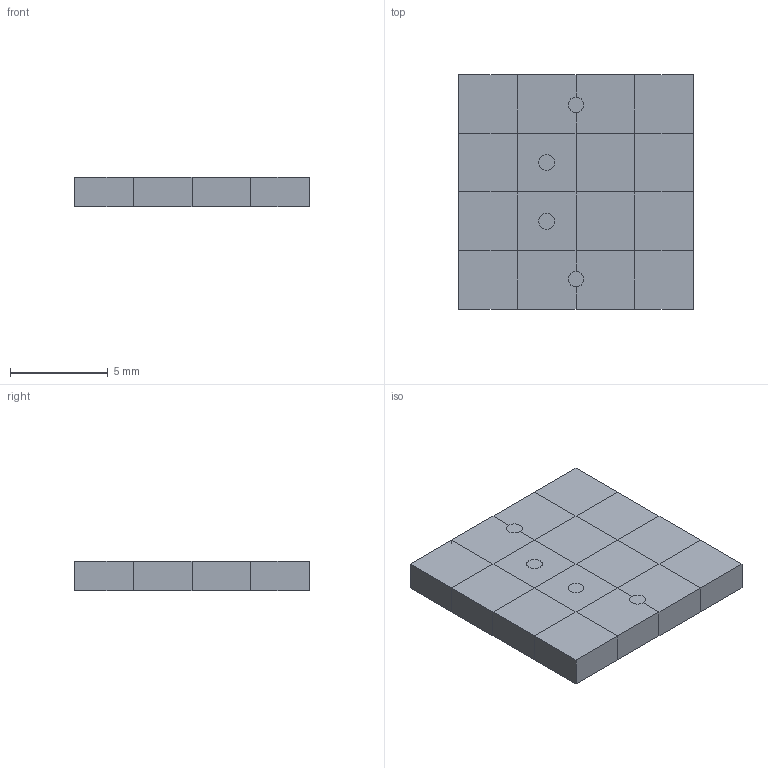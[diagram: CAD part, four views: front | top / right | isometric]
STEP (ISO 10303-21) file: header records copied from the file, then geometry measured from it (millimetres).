
FILE_DESCRIPTION(('Open CASCADE Model'),'2;1');
FILE_NAME('Open CASCADE Shape Model','2026-11-27T02:49:29',('Author'),( 'Open CASCADE'),'Open CASCADE STEP processor 7.9','Open CASCADE 7.9' ,'Unknown');
FILE_SCHEMA(('AUTOMOTIVE_DESIGN { 1 0 10303 214 1 1 1 1 }'));
Length unit declared in the file: millimetre
Products named in the file (3): manifold_S1; fluid; solid
Assembly tree (2 placements, depth 2):
  manifold_S1
    fluid
    solid
Bounding box: 12 x 12 x 1.5 mm (x, y, z)
Volume: 216 mm3; surface area: 1123.4 mm2
Topology: 2 solids, 2 shells, 928 faces, 2838 edges, 1742 vertices
Faces by surface type: plane 920, cylinder 8
Full cylindrical faces by diameter (mm): 0.8 x8
Entity records: 68406 total; most frequent: CARTESIAN_POINT 13427, DIRECTION 9876, LINE 7402, VECTOR 7402, ORIENTED_EDGE 5676, PCURVE 5676, DEFINITIONAL_REPRESENTATION 5676, EDGE_CURVE 2838
